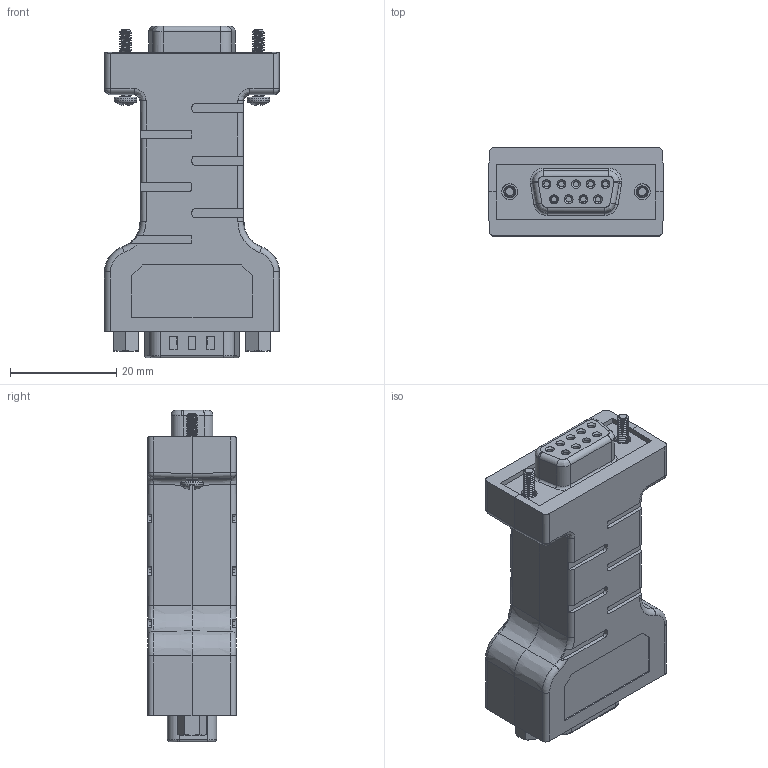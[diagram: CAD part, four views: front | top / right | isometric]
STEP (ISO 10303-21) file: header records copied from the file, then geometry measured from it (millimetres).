
FILE_DESCRIPTION(/* description */ (''),/* implementation_level */ '2;1');
FILE_NAME(/* name */ 'C:/Users/Leo/Desktop/AA CoolGear CADs/GM-1010-B/GM-1010-B Model3D LPV1.step',/* time_stamp */ '2021-08-25T13:34:43-04:00',/* author */ (''),/* organization */ (''),/* preprocessor_version */ 'ST-DEVELOPER v18.1',/* originating_system */ 'Autodesk Translation Framework v10.9.0.1377',/* authorisation */ '');
FILE_SCHEMA (('AUTOMOTIVE_DESIGN { 1 0 10303 214 3 1 1 }'));
Products named in the file (1): FusionComponent
Bounding box: 33 x 16.66 x 62.5 mm (x, y, z)
Volume: 8416.6 mm3; surface area: 14548.2 mm2
Topology: 4 solids, 4 shells, 1212 faces, 3117 edges, 1933 vertices
Faces by surface type: cylinder 554, plane 454, cone 65, bspline 58, torus 52, sphere 29
Full cylindrical faces by diameter (mm): 0.9 x18, 1 x27, 1.05 x9, 1.5 x9, 1.59 x2, 1.595 x74, 2.184 x70, 3 x6, 4.242 x2, 4.4 x4
Entity records: 55313 total; most frequent: CARTESIAN_POINT 27233, ORIENTED_EDGE 6120, DIRECTION 5525, EDGE_CURVE 3060, AXIS2_PLACEMENT_3D 2016, VERTEX_POINT 1933, LINE 1493, VECTOR 1493
